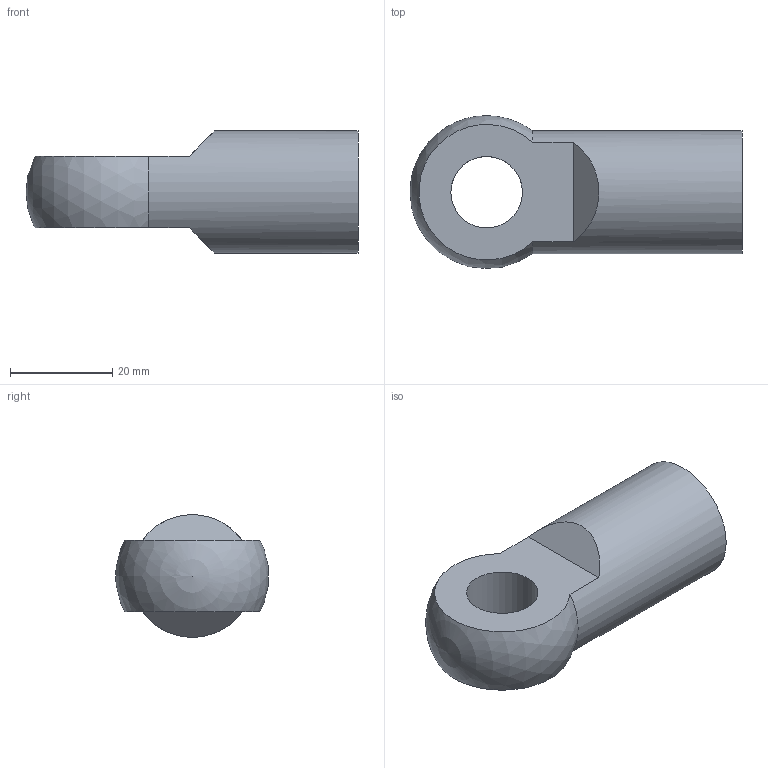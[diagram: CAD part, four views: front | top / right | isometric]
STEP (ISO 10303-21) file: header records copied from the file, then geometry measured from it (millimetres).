
FILE_DESCRIPTION( ( 'STEP AP203' ), '1' );
FILE_NAME( 'C:/Temp/Ganter_Step_05_03_2020/data/3_6/gn752/Joint piece GN 752-14-M14.stp', '2020-03-12T14:12:41', ( 'License CC BY-ND 4.0' ), ( 'CADENAS' ), ' ', 'PARTsolutions', ' ' );
FILE_SCHEMA( ( 'CONFIG_CONTROL_DESIGN' ) );
Length unit declared in the file: millimetre
Products named in the file (1): _Joint piece GN 752-14-M14
Bounding box: 65 x 29.89 x 24 mm (x, y, z)
Volume: 19171.7 mm3; surface area: 7017.3 mm2
Topology: 1 solids, 1 shells, 12 faces, 31 edges, 20 vertices
Faces by surface type: plane 5, cylinder 3, sphere 2, cone 2
Full cylindrical faces by diameter (mm): 11.835 x1, 14 x1, 24 x1
Entity records: 348 total; most frequent: DIRECTION 58, CARTESIAN_POINT 49, ORIENTED_EDGE 38, AXIS2_PLACEMENT_3D 26, EDGE_LOOP 20, EDGE_CURVE 19, VERTEX_POINT 17, FACE_OUTER_BOUND 15
